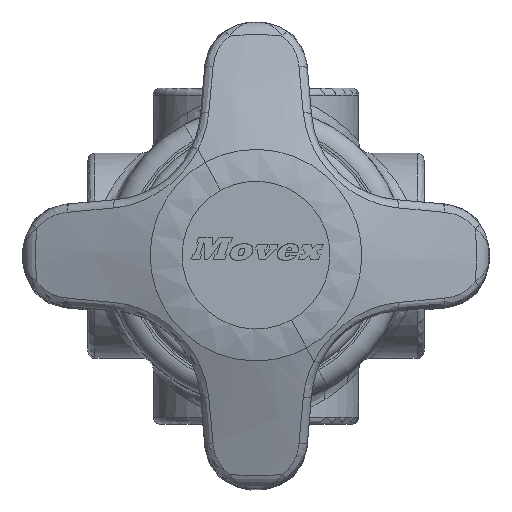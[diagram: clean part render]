
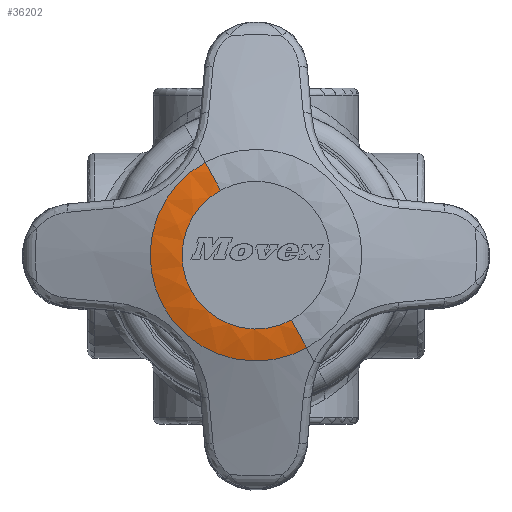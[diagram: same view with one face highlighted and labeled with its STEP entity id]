
A CAD part, top view. The second image highlights one B-rep face of the part: STEP entity #36202.
In plain terms, the highlighted face is a revolution surface.
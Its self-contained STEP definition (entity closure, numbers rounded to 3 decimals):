
#36160=CARTESIAN_POINT('Control Point',(-5.435,9.948,20.397)) ;
#36161=CARTESIAN_POINT('Control Point',(-4.911,8.989,20.795)) ;
#36162=CARTESIAN_POINT('Control Point',(-4.353,7.968,21.)) ;
#36163=CARTESIAN_POINT('Control Point',(-3.795,6.947,21.)) ;
#36164=CARTESIAN_POINT('Axis1P Location',(0.,0.,11.)) ;
#36168=CARTESIAN_POINT('Axis2P3D Location',(3.795,-6.947,11.)) ;
#36172=CARTESIAN_POINT('Vertex',(5.435,-9.948,20.397)) ;
#36174=CARTESIAN_POINT('Vertex',(3.795,-6.947,21.)) ;
#36177=CARTESIAN_POINT('Axis2P3D Location',(0.,0.,21.)) ;
#36181=CARTESIAN_POINT('Vertex',(-3.795,6.947,21.)) ;
#36184=CARTESIAN_POINT('Axis2P3D Location',(-3.795,6.947,11.)) ;
#36188=CARTESIAN_POINT('Vertex',(-5.435,9.948,20.397)) ;
#36191=CARTESIAN_POINT('Axis2P3D Location',(0.,0.,20.397)) ;
#36165=DIRECTION('Axis1P Direction',(-0.,-0.,-1.)) ;
#36169=DIRECTION('Axis2P3D Direction',(-0.878,-0.479,0.)) ;
#36178=DIRECTION('Axis2P3D Direction',(0.,0.,1.)) ;
#36185=DIRECTION('Axis2P3D Direction',(0.878,0.479,-0.)) ;
#36192=DIRECTION('Axis2P3D Direction',(0.,0.,1.)) ;
#36170=AXIS2_PLACEMENT_3D('Circle Axis2P3D',#36168,#36169,$) ;
#36179=AXIS2_PLACEMENT_3D('Circle Axis2P3D',#36177,#36178,$) ;
#36186=AXIS2_PLACEMENT_3D('Circle Axis2P3D',#36184,#36185,$) ;
#36193=AXIS2_PLACEMENT_3D('Circle Axis2P3D',#36191,#36192,$) ;
#36197=ORIENTED_EDGE('',*,*,#36176,.T.) ;
#36198=ORIENTED_EDGE('',*,*,#36183,.F.) ;
#36199=ORIENTED_EDGE('',*,*,#36190,.F.) ;
#36200=ORIENTED_EDGE('',*,*,#36195,.T.) ;
#36202=ADVANCED_FACE('PartBody',(#36201),#36167,.F.) ;
#36166=AXIS1_PLACEMENT('Revolution Surface Axis1P',#36164,#36165) ;
#36159=B_SPLINE_CURVE_WITH_KNOTS('',3,(#36160,#36161,#36162,#36163),.UNSPECIFIED.,.F.,.U.,(4,4),(12.217,15.708),.UNSPECIFIED.) ;
#36171=CIRCLE('generated circle',#36170,10.) ;
#36180=CIRCLE('generated circle',#36179,7.916) ;
#36187=CIRCLE('generated circle',#36186,10.) ;
#36194=CIRCLE('generated circle',#36193,11.336) ;
#36176=EDGE_CURVE('',#36173,#36175,#36171,.T.) ;
#36183=EDGE_CURVE('',#36182,#36175,#36180,.T.) ;
#36190=EDGE_CURVE('',#36189,#36182,#36187,.T.) ;
#36195=EDGE_CURVE('',#36189,#36173,#36194,.T.) ;
#36196=EDGE_LOOP('',(#36197,#36198,#36199,#36200)) ;
#36201=FACE_OUTER_BOUND('',#36196,.T.) ;
#36167=SURFACE_OF_REVOLUTION('homeo Torus',#36159,#36166) ;
#36173=VERTEX_POINT('',#36172) ;
#36175=VERTEX_POINT('',#36174) ;
#36182=VERTEX_POINT('',#36181) ;
#36189=VERTEX_POINT('',#36188) ;
